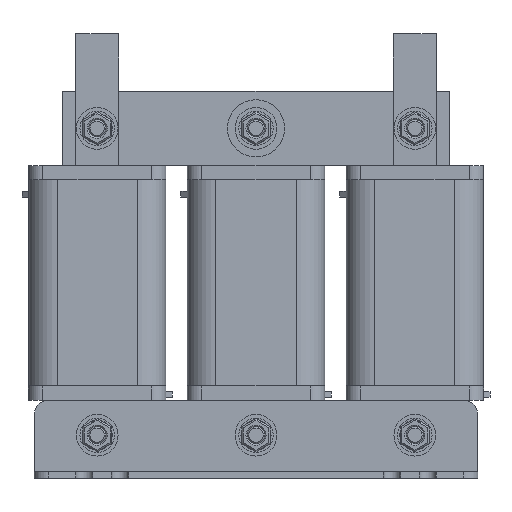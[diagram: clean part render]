
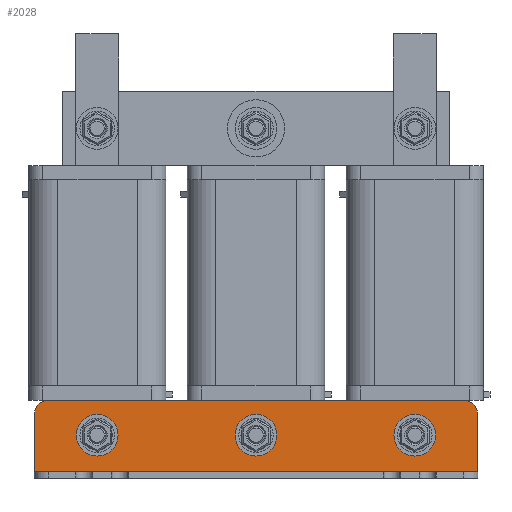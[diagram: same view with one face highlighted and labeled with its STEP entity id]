
A CAD part, front view. The second image highlights one B-rep face of the part: STEP entity #2028.
In plain terms, the highlighted planar face has unit normal (0, -1, 0) as drawn and (0, 1, 0) by its records, which use the part's own axes.
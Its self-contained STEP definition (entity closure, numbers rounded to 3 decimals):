
#2028=ADVANCED_FACE('',(#2277,#2279,#2281,#2283),#2285,.T.);
#2277=FACE_BOUND('',#2278,.T.);
#2278=EDGE_LOOP('',(#3589,#3590,#3591,#3592,#3593,#3594));
#2279=FACE_BOUND('',#2280,.T.);
#2280=EDGE_LOOP('',(#3595));
#2281=FACE_BOUND('',#2282,.T.);
#2282=EDGE_LOOP('',(#3596));
#2283=FACE_BOUND('',#2284,.T.);
#2284=EDGE_LOOP('',(#3597));
#2285=PLANE('',#2286);
#2286=AXIS2_PLACEMENT_3D('',#2287,#2288,#2289);
#2287=CARTESIAN_POINT('',(77.5,-10.3,2.2));
#2288=DIRECTION('',(0.,1.,-0.));
#2289=DIRECTION('',(-1.,0.,0.));
#3589=ORIENTED_EDGE('',*,*,#4381,.F.);
#3590=ORIENTED_EDGE('',*,*,#4382,.F.);
#3591=ORIENTED_EDGE('',*,*,#4383,.T.);
#3592=ORIENTED_EDGE('',*,*,#4384,.T.);
#3593=ORIENTED_EDGE('',*,*,#4385,.F.);
#3594=ORIENTED_EDGE('',*,*,#4386,.F.);
#3595=ORIENTED_EDGE('',*,*,#4387,.T.);
#3596=ORIENTED_EDGE('',*,*,#4388,.T.);
#3597=ORIENTED_EDGE('',*,*,#4389,.T.);
#4381=EDGE_CURVE('',#4800,#4801,#4802,.F.);
#4382=EDGE_CURVE('',#4803,#4800,#4804,.T.);
#4383=EDGE_CURVE('',#4803,#4805,#4806,.T.);
#4384=EDGE_CURVE('',#4805,#4807,#4808,.T.);
#4385=EDGE_CURVE('',#4809,#4807,#4810,.F.);
#4386=EDGE_CURVE('',#4801,#4809,#4811,.T.);
#4387=EDGE_CURVE('',#4812,#4812,#4813,.F.);
#4388=EDGE_CURVE('',#4814,#4814,#4815,.F.);
#4389=EDGE_CURVE('',#4816,#4816,#4817,.F.);
#4800=VERTEX_POINT('',#5524);
#4801=VERTEX_POINT('',#5525);
#4802=CIRCLE('',#5526,5.);
#4803=VERTEX_POINT('',#5530);
#4804=LINE('',#5531,#5532);
#4805=VERTEX_POINT('',#5534);
#4806=LINE('',#5535,#5536);
#4807=VERTEX_POINT('',#5538);
#4808=LINE('',#5539,#5540);
#4809=VERTEX_POINT('',#5542);
#4810=CIRCLE('',#5543,5.);
#4811=LINE('',#5547,#5548);
#4812=VERTEX_POINT('',#5550);
#4813=CIRCLE('',#5551,3.);
#4814=VERTEX_POINT('',#5555);
#4815=CIRCLE('',#5556,3.);
#4816=VERTEX_POINT('',#5560);
#4817=CIRCLE('',#5561,3.);
#5524=CARTESIAN_POINT('',(77.5,-10.3,22.2));
#5525=CARTESIAN_POINT('',(72.5,-10.3,27.2));
#5526=AXIS2_PLACEMENT_3D('',#5527,#5528,#5529);
#5527=CARTESIAN_POINT('',(72.5,-10.3,22.2));
#5528=DIRECTION('',(0.,1.,-0.));
#5529=DIRECTION('',(0.,0.,1.));
#5530=CARTESIAN_POINT('',(77.5,-10.3,2.2));
#5531=CARTESIAN_POINT('',(77.5,-10.3,2.2));
#5532=VECTOR('',#5533,1.);
#5533=DIRECTION('',(0.,0.,1.));
#5534=CARTESIAN_POINT('',(-77.5,-10.3,2.2));
#5535=CARTESIAN_POINT('',(77.5,-10.3,2.2));
#5536=VECTOR('',#5537,1.);
#5537=DIRECTION('',(-1.,0.,0.));
#5538=CARTESIAN_POINT('',(-77.5,-10.3,22.2));
#5539=CARTESIAN_POINT('',(-77.5,-10.3,2.2));
#5540=VECTOR('',#5541,1.);
#5541=DIRECTION('',(0.,0.,1.));
#5542=CARTESIAN_POINT('',(-72.5,-10.3,27.2));
#5543=AXIS2_PLACEMENT_3D('',#5544,#5545,#5546);
#5544=CARTESIAN_POINT('',(-72.5,-10.3,22.2));
#5545=DIRECTION('',(0.,1.,-0.));
#5546=DIRECTION('',(-1.,0.,0.));
#5547=CARTESIAN_POINT('',(72.5,-10.3,27.2));
#5548=VECTOR('',#5549,1.);
#5549=DIRECTION('',(-1.,0.,0.));
#5550=CARTESIAN_POINT('',(52.5,-10.3,15.));
#5551=AXIS2_PLACEMENT_3D('',#5552,#5553,#5554);
#5552=CARTESIAN_POINT('',(55.5,-10.3,15.));
#5553=DIRECTION('',(0.,1.,-0.));
#5554=DIRECTION('',(-1.,0.,0.));
#5555=CARTESIAN_POINT('',(-3.,-10.3,15.));
#5556=AXIS2_PLACEMENT_3D('',#5557,#5558,#5559);
#5557=CARTESIAN_POINT('',(0.,-10.3,15.));
#5558=DIRECTION('',(0.,1.,-0.));
#5559=DIRECTION('',(-1.,0.,0.));
#5560=CARTESIAN_POINT('',(-58.5,-10.3,15.));
#5561=AXIS2_PLACEMENT_3D('',#5562,#5563,#5564);
#5562=CARTESIAN_POINT('',(-55.5,-10.3,15.));
#5563=DIRECTION('',(0.,1.,-0.));
#5564=DIRECTION('',(-1.,0.,0.));
